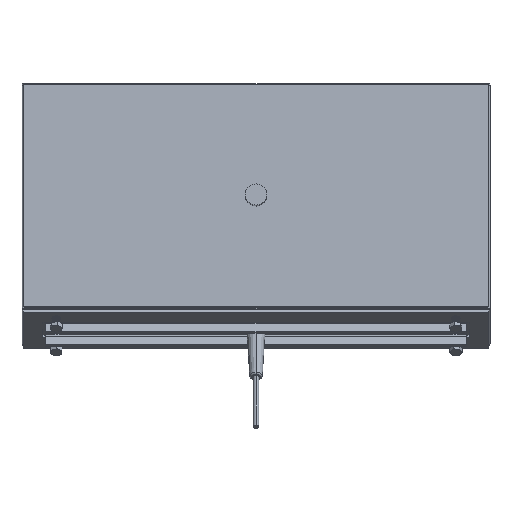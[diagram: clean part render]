
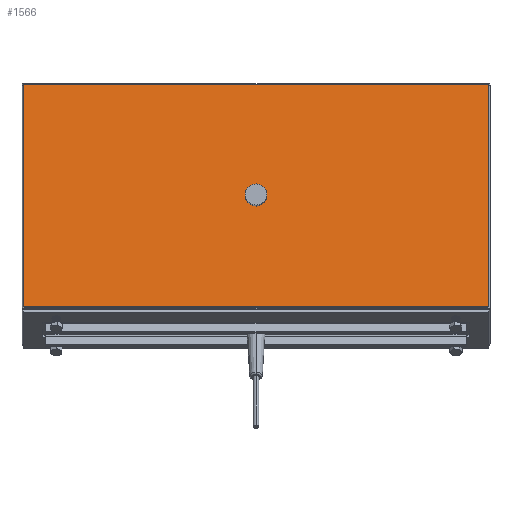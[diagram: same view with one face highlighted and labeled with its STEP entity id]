
A CAD part, front view. The second image highlights one B-rep face of the part: STEP entity #1566.
In plain terms, the highlighted planar face has unit normal (0, -0.99, 0.139).
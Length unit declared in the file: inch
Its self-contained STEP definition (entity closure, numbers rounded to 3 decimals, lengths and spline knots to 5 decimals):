
#126 = ORIENTED_EDGE ( 'NONE', *, *, #1056, .T. ) ;
#383 = CARTESIAN_POINT ( 'NONE',  ( -8.08, -2.19201, 0.48621 ) ) ;
#401 = EDGE_LOOP ( 'NONE', ( #6573, #3451, #10401, #2484, #1210, #9427, #126, #10920 ) ) ;
#409 = VERTEX_POINT ( 'NONE', #5104 ) ;
#765 = CARTESIAN_POINT ( 'NONE',  ( -8.08, -2.19201, 0.48621 ) ) ;
#915 = CARTESIAN_POINT ( 'NONE',  ( 8.14, -2.19201, 0.48621 ) ) ;
#943 = AXIS2_PLACEMENT_3D ( 'NONE', #8543, #3470, #9410 ) ;
#988 = CARTESIAN_POINT ( 'NONE',  ( -8.08, -1.11203, 8.17069 ) ) ;
#1056 = EDGE_CURVE ( 'NONE', #6315, #409, #10545, .T. ) ;
#1210 = ORIENTED_EDGE ( 'NONE', *, *, #7763, .T. ) ;
#1223 = DIRECTION ( 'NONE',  ( 0., -0.139, -0.99 ) ) ;
#1303 = LINE ( 'NONE', #3948, #9515 ) ;
#1339 = DIRECTION ( 'NONE',  ( -1., 0., 0. ) ) ;
#1481 = DIRECTION ( 'NONE',  ( 0., -0.99, 0.139 ) ) ;
#1566 = ADVANCED_FACE ( 'NONE', ( #6562, #10809 ), #10897, .T. ) ;
#1772 = DIRECTION ( 'NONE',  ( 0., -0.99, 0.139 ) ) ;
#1841 = DIRECTION ( 'NONE',  ( 0., -0.139, -0.99 ) ) ;
#1851 = CARTESIAN_POINT ( 'NONE',  ( 0., -1.70421, 3.9571 ) ) ;
#1854 = CARTESIAN_POINT ( 'NONE',  ( 8.14, -1.11203, 8.17069 ) ) ;
#1933 = EDGE_LOOP ( 'NONE', ( #7799, #8256 ) ) ;
#2371 = CARTESIAN_POINT ( 'NONE',  ( 8.08, -1.10368, 8.2301 ) ) ;
#2444 = DIRECTION ( 'NONE',  ( 0., -0.139, -0.99 ) ) ;
#2484 = ORIENTED_EDGE ( 'NONE', *, *, #4633, .T. ) ;
#2779 = VECTOR ( 'NONE', #7790, 39.37008 ) ;
#3095 = VERTEX_POINT ( 'NONE', #9097 ) ;
#3276 = VERTEX_POINT ( 'NONE', #915 ) ;
#3296 = LINE ( 'NONE', #8636, #2779 ) ;
#3345 = CIRCLE ( 'NONE', #3952, 0.06 ) ;
#3431 = CARTESIAN_POINT ( 'NONE',  ( 8.08, -2.20036, 0.42679 ) ) ;
#3451 = ORIENTED_EDGE ( 'NONE', *, *, #8748, .T. ) ;
#3470 = DIRECTION ( 'NONE',  ( 0., -0.99, 0.139 ) ) ;
#3625 = CARTESIAN_POINT ( 'NONE',  ( 8.08, -2.19201, 0.48621 ) ) ;
#3804 = VECTOR ( 'NONE', #1339, 39.37008 ) ;
#3948 = CARTESIAN_POINT ( 'NONE',  ( -8.14, -2.19201, 0.48621 ) ) ;
#3952 = AXIS2_PLACEMENT_3D ( 'NONE', #3625, #9567, #4477 ) ;
#4348 = AXIS2_PLACEMENT_3D ( 'NONE', #383, #6264, #1223 ) ;
#4477 = DIRECTION ( 'NONE',  ( 0., 0.139, 0.99 ) ) ;
#4633 = EDGE_CURVE ( 'NONE', #3276, #9100, #6802, .T. ) ;
#4799 = EDGE_CURVE ( 'NONE', #5507, #3095, #5730, .T. ) ;
#5096 = CARTESIAN_POINT ( 'NONE',  ( -8.08, -1.10368, 8.2301 ) ) ;
#5104 = CARTESIAN_POINT ( 'NONE',  ( -8.14, -1.11203, 8.17069 ) ) ;
#5173 = AXIS2_PLACEMENT_3D ( 'NONE', #6838, #1772, #7689 ) ;
#5507 = VERTEX_POINT ( 'NONE', #6632 ) ;
#5730 = CIRCLE ( 'NONE', #4348, 0.06 ) ;
#5830 = EDGE_CURVE ( 'NONE', #8609, #3276, #3345, .T. ) ;
#6264 = DIRECTION ( 'NONE',  ( 0., -0.99, 0.139 ) ) ;
#6312 = LINE ( 'NONE', #8088, #3804 ) ;
#6315 = VERTEX_POINT ( 'NONE', #5096 ) ;
#6402 = CARTESIAN_POINT ( 'NONE',  ( 8.14, -1.11203, 8.17069 ) ) ;
#6531 = CARTESIAN_POINT ( 'NONE',  ( 0., -1.65202, 4.32845 ) ) ;
#6562 = FACE_BOUND ( 'NONE', #1933, .T. ) ;
#6573 = ORIENTED_EDGE ( 'NONE', *, *, #4799, .T. ) ;
#6632 = CARTESIAN_POINT ( 'NONE',  ( -8.14, -2.19201, 0.48621 ) ) ;
#6802 = LINE ( 'NONE', #1854, #9069 ) ;
#6838 = CARTESIAN_POINT ( 'NONE',  ( 0., -1.65202, 4.32845 ) ) ;
#6900 = DIRECTION ( 'NONE',  ( 0., -0.99, 0.139 ) ) ;
#6910 = DIRECTION ( 'NONE',  ( 0., 0.139, 0.99 ) ) ;
#7013 = EDGE_CURVE ( 'NONE', #7200, #6315, #6312, .T. ) ;
#7141 = EDGE_CURVE ( 'NONE', #409, #5507, #1303, .T. ) ;
#7200 = VERTEX_POINT ( 'NONE', #2371 ) ;
#7360 = DIRECTION ( 'NONE',  ( 0., -0.139, -0.99 ) ) ;
#7388 = DIRECTION ( 'NONE',  ( 0., -0.139, -0.99 ) ) ;
#7399 = EDGE_CURVE ( 'NONE', #9255, #7477, #10426, .T. ) ;
#7477 = VERTEX_POINT ( 'NONE', #1851 ) ;
#7521 = DIRECTION ( 'NONE',  ( 0., -0.99, 0.139 ) ) ;
#7689 = DIRECTION ( 'NONE',  ( 0., -0.139, -0.99 ) ) ;
#7763 = EDGE_CURVE ( 'NONE', #9100, #7200, #10963, .T. ) ;
#7790 = DIRECTION ( 'NONE',  ( 1., 0., 0. ) ) ;
#7799 = ORIENTED_EDGE ( 'NONE', *, *, #7399, .F. ) ;
#8015 = AXIS2_PLACEMENT_3D ( 'NONE', #988, #6900, #1841 ) ;
#8088 = CARTESIAN_POINT ( 'NONE',  ( -8.08, -1.10368, 8.2301 ) ) ;
#8256 = ORIENTED_EDGE ( 'NONE', *, *, #8315, .F. ) ;
#8315 = EDGE_CURVE ( 'NONE', #7477, #9255, #10945, .T. ) ;
#8332 = CARTESIAN_POINT ( 'NONE',  ( 0., -1.59983, 4.6998 ) ) ;
#8543 = CARTESIAN_POINT ( 'NONE',  ( 8.08, -1.11203, 8.17069 ) ) ;
#8609 = VERTEX_POINT ( 'NONE', #3431 ) ;
#8636 = CARTESIAN_POINT ( 'NONE',  ( 8.08, -2.20036, 0.42679 ) ) ;
#8748 = EDGE_CURVE ( 'NONE', #3095, #8609, #3296, .T. ) ;
#9069 = VECTOR ( 'NONE', #6910, 39.37008 ) ;
#9097 = CARTESIAN_POINT ( 'NONE',  ( -8.08, -2.20036, 0.42679 ) ) ;
#9100 = VERTEX_POINT ( 'NONE', #6402 ) ;
#9246 = AXIS2_PLACEMENT_3D ( 'NONE', #6531, #1481, #7388 ) ;
#9255 = VERTEX_POINT ( 'NONE', #8332 ) ;
#9410 = DIRECTION ( 'NONE',  ( 0., -0.139, -0.99 ) ) ;
#9427 = ORIENTED_EDGE ( 'NONE', *, *, #7013, .T. ) ;
#9515 = VECTOR ( 'NONE', #7360, 39.37008 ) ;
#9567 = DIRECTION ( 'NONE',  ( 0., -0.99, 0.139 ) ) ;
#9884 = AXIS2_PLACEMENT_3D ( 'NONE', #765, #7521, #2444 ) ;
#10401 = ORIENTED_EDGE ( 'NONE', *, *, #5830, .T. ) ;
#10426 = CIRCLE ( 'NONE', #5173, 0.375 ) ;
#10545 = CIRCLE ( 'NONE', #8015, 0.06 ) ;
#10809 = FACE_OUTER_BOUND ( 'NONE', #401, .T. ) ;
#10897 = PLANE ( 'NONE',  #9884 ) ;
#10920 = ORIENTED_EDGE ( 'NONE', *, *, #7141, .T. ) ;
#10945 = CIRCLE ( 'NONE', #9246, 0.375 ) ;
#10963 = CIRCLE ( 'NONE', #943, 0.06 ) ;
